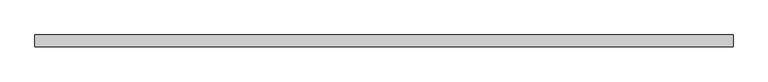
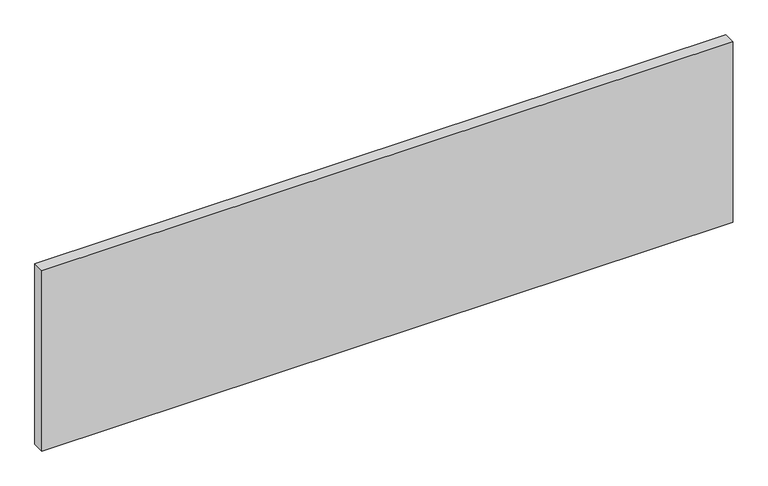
"""IFC4 building model written with IfcOpenShell, lengths in millimetres: plate geometry, Системная панель : С остеклением."""

from ifc_helpers import new_model, si_unit, origin, origin_with_axes, place, context, project, spatial, polyline, outline, extrude, source, transform, mapped, element, save


def plate_b2a9db7e(model_context):
    return source(origin(), model_context, "Body", "SweptSolid", [
        extrude(outline(polyline([(725.0, -49.5), (-725.0, -49.5), (-725.0, -24.5), (725.0, -24.5), (725.0, -49.5)])), origin_with_axes(), (0.0, 0.0, 1.0), 400.0),
    ])


if __name__ == "__main__":
    model = new_model("IFC4")
    model_context = context("Model", 3, world=origin())
    ifc_project = project(units=[si_unit("LENGTHUNIT", "METRE", prefix="MILLI")], contexts=[model_context])
    site = spatial("IfcSite", under=ifc_project)
    building = spatial("IfcBuilding", under=site)
    placement = place(None, origin())
    plate_shape = plate_b2a9db7e(model_context)
    element("IfcPlate", 1, ObjectType="Системная панель : С остеклением", at=placement, inside=building, context=model_context, shape_type="MappedRepresentation", body=[
        mapped(plate_shape, transform((0.0, 0.0, 0.0), x_axis=(1.0, 0.0, 0.0), y_axis=(0.0, 1.0, 0.0), z_axis=(0.0, 0.0, 1.0))),
    ])
    save(model, "model.ifc")
